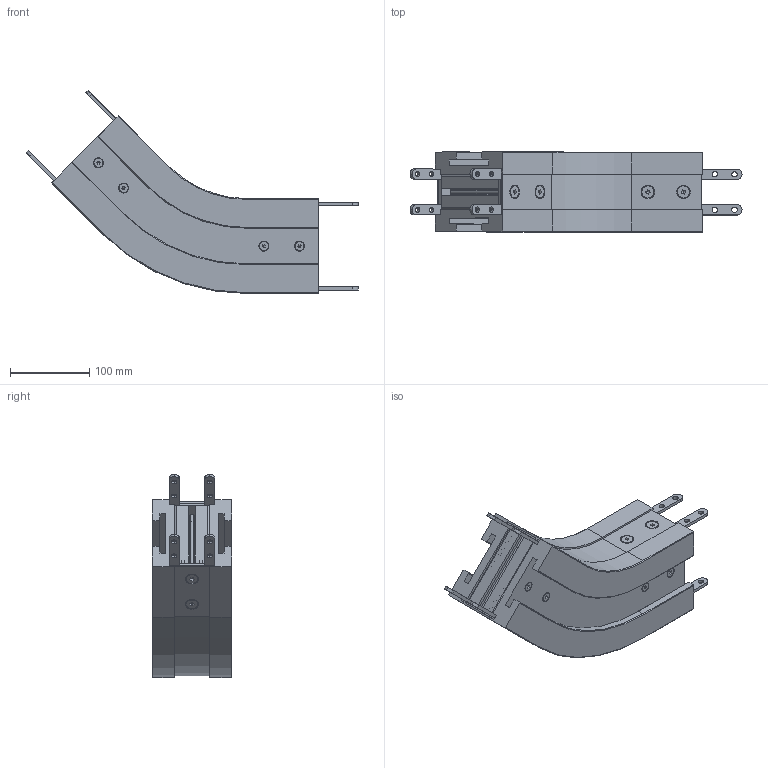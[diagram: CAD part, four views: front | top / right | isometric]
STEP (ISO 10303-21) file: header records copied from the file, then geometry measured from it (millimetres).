
FILE_DESCRIPTION (( 'STEP AP203' ), '1' );
FILE_NAME ('2000.450.445.STEP', '2015-04-15T13:05:10', ( '' ), ( '' ), 'SwSTEP 2.0', 'SolidWorks 2012', '' );
FILE_SCHEMA (( 'CONFIG_CONTROL_DESIGN' ));
Products named in the file (1): 2000.450.445
Bounding box: 419.66 x 101 x 256.82 mm (x, y, z)
Volume: 1959100 mm3; surface area: 624810.3 mm2
Topology: 26 solids, 26 shells, 2506 faces, 6586 edges, 4116 vertices
Faces by surface type: cone 1084, cylinder 814, plane 576, torus 32
Entity records: 77845 total; most frequent: DIRECTION 14872, CARTESIAN_POINT 13177, ORIENTED_EDGE 13108, EDGE_CURVE 6554, AXIS2_PLACEMENT_3D 5811, VERTEX_POINT 4116, CIRCLE 3304, LINE 3250
